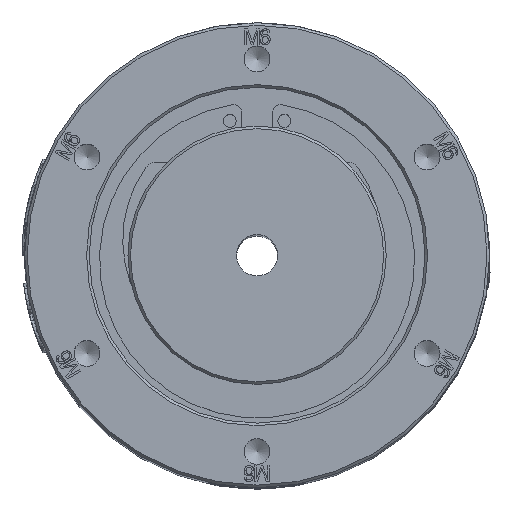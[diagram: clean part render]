
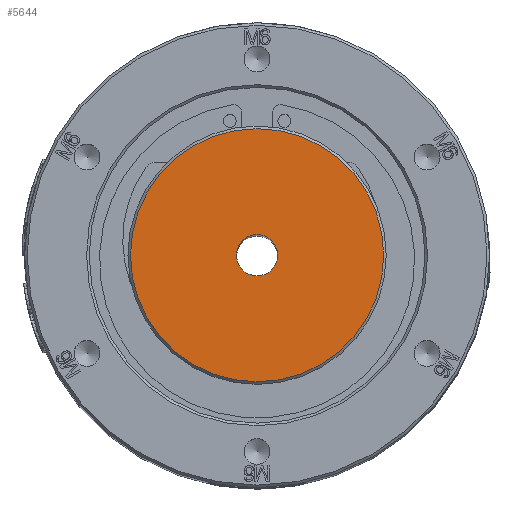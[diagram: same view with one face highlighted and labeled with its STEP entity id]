
A CAD part, top view. The second image highlights one B-rep face of the part: STEP entity #5644.
In plain terms, the highlighted planar face has unit normal (0, 0, 1).
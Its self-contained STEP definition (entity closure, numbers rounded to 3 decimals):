
#666=FACE_BOUND('',#16790,.T.);
#667=FACE_BOUND('',#16791,.T.);
#871=CIRCLE('',#56586,4.);
#983=CIRCLE('',#56822,24.5);
#1948=PLANE('',#56823);
#5644=ADVANCED_FACE('',(#666,#667),#1948,.T.);
#16790=EDGE_LOOP('',(#28557));
#16791=EDGE_LOOP('',(#28558));
#28557=ORIENTED_EDGE('',*,*,#45798,.T.);
#28558=ORIENTED_EDGE('',*,*,#45620,.F.);
#38069=VERTEX_POINT('',#99603);
#38213=VERTEX_POINT('',#100619);
#45620=EDGE_CURVE('',#38069,#38069,#871,.T.);
#45798=EDGE_CURVE('',#38213,#38213,#983,.T.);
#56586=AXIS2_PLACEMENT_3D('',#99602,#61529,#61530);
#56822=AXIS2_PLACEMENT_3D('',#100618,#62057,#62058);
#56823=AXIS2_PLACEMENT_3D('',#100620,#62059,#62060);
#61529=DIRECTION('',(0.,0.,1.));
#61530=DIRECTION('',(1.,0.,0.));
#62057=DIRECTION('',(0.,0.,1.));
#62058=DIRECTION('',(1.,0.,0.));
#62059=DIRECTION('',(0.,0.,1.));
#62060=DIRECTION('',(1.,0.,0.));
#99602=CARTESIAN_POINT('',(0.,0.,175.));
#99603=CARTESIAN_POINT('',(4.,0.,175.));
#100618=CARTESIAN_POINT('',(0.,0.,175.));
#100619=CARTESIAN_POINT('',(24.5,0.,175.));
#100620=CARTESIAN_POINT('',(0.,0.,175.));
